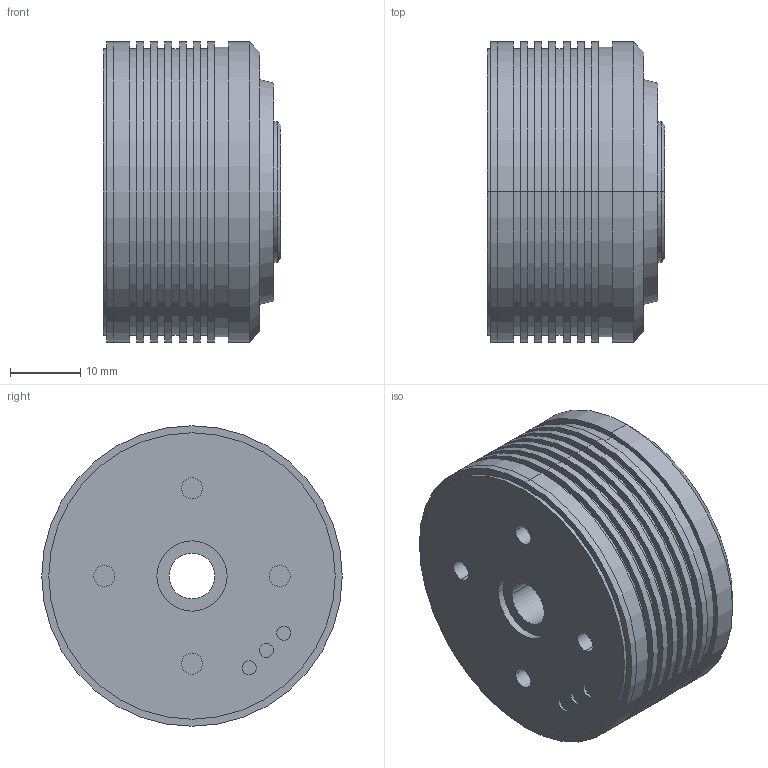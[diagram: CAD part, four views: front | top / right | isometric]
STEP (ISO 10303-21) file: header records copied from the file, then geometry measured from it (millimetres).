
FILE_DESCRIPTION((''),'2;1');
FILE_NAME('G30','2020-09-27T',('Administrator'),(''),'PRO/ENGINEER BY PARAMETRIC TECHNOLOGY CORPORATION, 2013040','PRO/ENGINEER BY PARAMETRIC TECHNOLOGY CORPORATION, 2013040','');
FILE_SCHEMA(('CONFIG_CONTROL_DESIGN'));
Length unit declared in the file: millimetre
Products named in the file (1): G30
Bounding box: 25.3 x 42.8 x 42.8 mm (x, y, z)
Volume: 31105.6 mm3; surface area: 8612.3 mm2
Topology: 1 solids, 1 shells, 105 faces, 210 edges, 138 vertices
Faces by surface type: cylinder 66, plane 33, cone 6
Entity records: 2836 total; most frequent: DIRECTION 558, CARTESIAN_POINT 453, ORIENTED_EDGE 420, AXIS2_PLACEMENT_3D 243, EDGE_CURVE 210, VERTEX_POINT 138, EDGE_LOOP 138, CIRCLE 138
